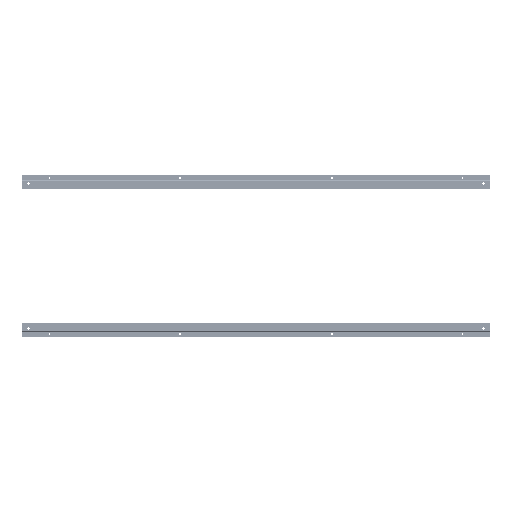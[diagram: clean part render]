
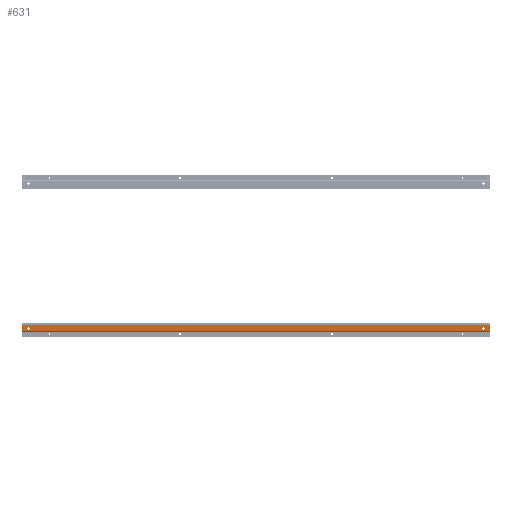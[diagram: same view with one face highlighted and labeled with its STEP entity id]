
A CAD part, left-side view. The second image highlights one B-rep face of the part: STEP entity #631.
In plain terms, the highlighted planar face has unit normal (-1, 0, 0).
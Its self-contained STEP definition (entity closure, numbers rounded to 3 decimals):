
#123 = VERTEX_POINT('',#124);
#124 = CARTESIAN_POINT('',(-31.7,1699.,-7.2));
#139 = VERTEX_POINT('',#140);
#140 = CARTESIAN_POINT('',(-31.7,0.,-7.2));
#146 = EDGE_CURVE('',#139,#123,#147,.T.);
#147 = LINE('',#148,#149);
#148 = CARTESIAN_POINT('',(-31.7,1699.,-7.2));
#149 = VECTOR('',#150,1.);
#150 = DIRECTION('',(0.,1.,0.));
#287 = EDGE_CURVE('',#288,#123,#290,.T.);
#288 = VERTEX_POINT('',#289);
#289 = CARTESIAN_POINT('',(-31.7,1699.,-28.081));
#290 = LINE('',#291,#292);
#291 = CARTESIAN_POINT('',(-31.7,1699.,-28.081));
#292 = VECTOR('',#293,1.);
#293 = DIRECTION('',(0.,0.,1.));
#462 = EDGE_CURVE('',#139,#463,#465,.T.);
#463 = VERTEX_POINT('',#464);
#464 = CARTESIAN_POINT('',(-31.7,0.,-28.081));
#465 = LINE('',#466,#467);
#466 = CARTESIAN_POINT('',(-31.7,0.,-7.2));
#467 = VECTOR('',#468,1.);
#468 = DIRECTION('',(0.,0.,-1.));
#631 = ADVANCED_FACE('',(#632,#643,#654),#665,.F.);
#632 = FACE_BOUND('',#633,.F.);
#633 = EDGE_LOOP('',(#634,#635,#636,#642));
#634 = ORIENTED_EDGE('',*,*,#146,.F.);
#635 = ORIENTED_EDGE('',*,*,#462,.T.);
#636 = ORIENTED_EDGE('',*,*,#637,.T.);
#637 = EDGE_CURVE('',#463,#288,#638,.T.);
#638 = LINE('',#639,#640);
#639 = CARTESIAN_POINT('',(-31.7,1699.,-28.081));
#640 = VECTOR('',#641,1.);
#641 = DIRECTION('',(0.,1.,0.));
#642 = ORIENTED_EDGE('',*,*,#287,.T.);
#643 = FACE_BOUND('',#644,.F.);
#644 = EDGE_LOOP('',(#645));
#645 = ORIENTED_EDGE('',*,*,#646,.F.);
#646 = EDGE_CURVE('',#647,#647,#649,.T.);
#647 = VERTEX_POINT('',#648);
#648 = CARTESIAN_POINT('',(-31.7,1675.,-15.85));
#649 = CIRCLE('',#650,5.);
#650 = AXIS2_PLACEMENT_3D('',#651,#652,#653);
#651 = CARTESIAN_POINT('',(-31.7,1675.,-20.85));
#652 = DIRECTION('',(1.,0.,0.));
#653 = DIRECTION('',(0.,0.,1.));
#654 = FACE_BOUND('',#655,.F.);
#655 = EDGE_LOOP('',(#656));
#656 = ORIENTED_EDGE('',*,*,#657,.F.);
#657 = EDGE_CURVE('',#658,#658,#660,.T.);
#658 = VERTEX_POINT('',#659);
#659 = CARTESIAN_POINT('',(-31.7,24.,-15.85));
#660 = CIRCLE('',#661,5.);
#661 = AXIS2_PLACEMENT_3D('',#662,#663,#664);
#662 = CARTESIAN_POINT('',(-31.7,24.,-20.85));
#663 = DIRECTION('',(1.,0.,-0.));
#664 = DIRECTION('',(0.,0.,1.));
#665 = PLANE('',#666);
#666 = AXIS2_PLACEMENT_3D('',#667,#668,#669);
#667 = CARTESIAN_POINT('',(-31.7,1699.,-7.2));
#668 = DIRECTION('',(1.,-0.,0.));
#669 = DIRECTION('',(0.,0.,-1.));
